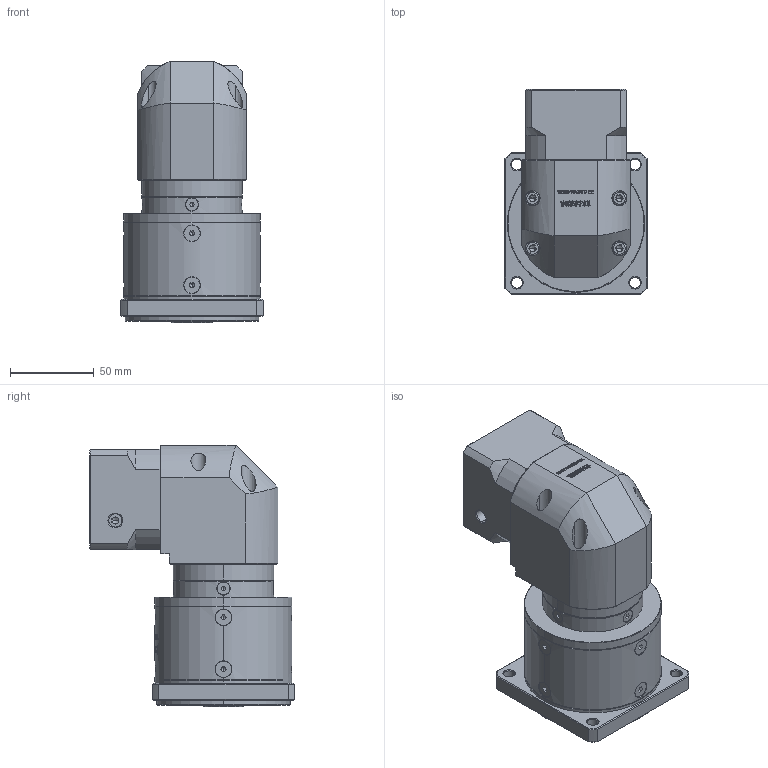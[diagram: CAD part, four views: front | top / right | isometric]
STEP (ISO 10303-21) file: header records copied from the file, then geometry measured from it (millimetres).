
FILE_DESCRIPTION (( 'STEP AP214' ), '1' );
FILE_NAME ('ZFR80-K15-L2-8-30-46-M4.step', '2022-05-08T14:59:32', ( '' ), ( 'Microsoft' ), 'SwSTEP 2.0', 'SolidWorks 2016', '' );
FILE_SCHEMA (( 'AUTOMOTIVE_DESIGN' ));
Length unit declared in the file: millimetre
Products named in the file (1): ZFR80-K15-L2-8-30-46-M4
Bounding box: 85 x 122.7 x 156.5 mm (x, y, z)
Volume: 775117.9 mm3; surface area: 102921.7 mm2
Topology: 17 solids, 18 shells, 3072 faces, 8220 edges, 5309 vertices
Faces by surface type: plane 1592, bspline 662, cylinder 425, cone 373, torus 20
Entity records: 180836 total; most frequent: CARTESIAN_POINT 75932, ORIENTED_EDGE 16368, DIRECTION 12260, EDGE_CURVE 8184, VERTEX_POINT 5309, VECTOR 4924, LINE 4924, AXIS2_PLACEMENT_3D 3668
